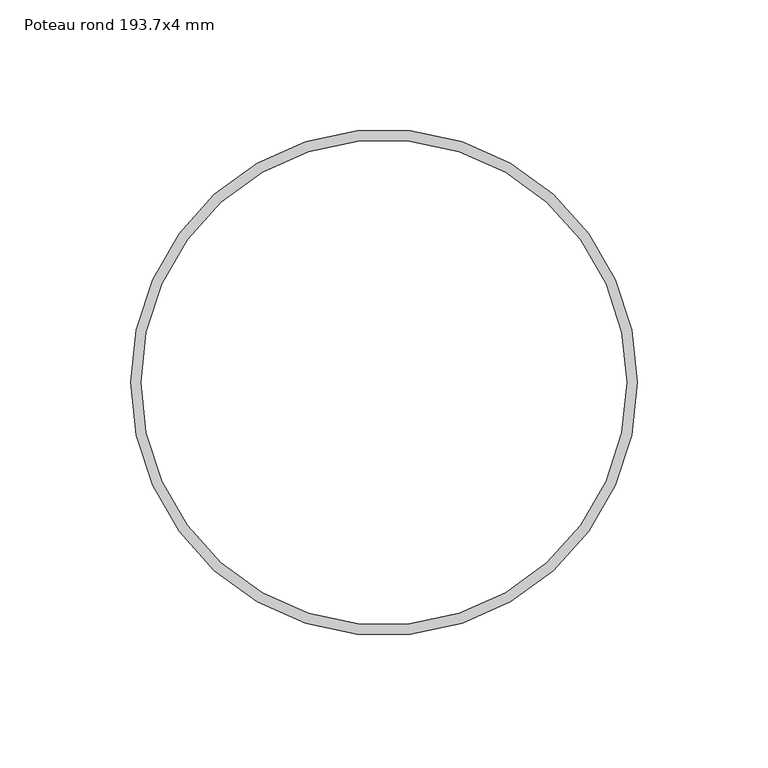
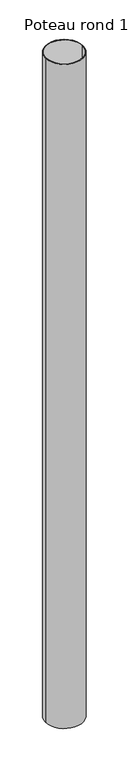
"""IFC4 building model written with IfcOpenShell, lengths in millimetres: column geometry, Poteau RO (EN 10219-2) : Poteau rond 193.7x4 mm."""

from ifc_helpers import new_model, si_unit, point, frame, origin, origin_2d, place, context, project, spatial, circle_curve, trimmed, segment, composite_curve, outline, extrude, source, transform, mapped, element, save


def poteau_rond_193_7x4_mm_2a994011(model_context):
    return source(origin(), model_context, "Body", "SweptSolid", [
        extrude(outline(composite_curve([segment(trimmed(circle_curve(origin_2d(), 96.85), [point((-96.85, 0.0))], [point((96.85, 0.0))], False, "CARTESIAN"), True, "CONTINUOUS"), segment(trimmed(circle_curve(origin_2d(), 96.85), [point((96.85, 0.0))], [point((-96.85, 0.0))], False, "CARTESIAN"), True, "CONTINUOUS")], self_intersect=False), holes=[composite_curve([segment(trimmed(circle_curve(origin_2d(), 92.85), [point((-92.85, 0.0))], [point((92.85, 0.0))], True, "CARTESIAN"), True, "CONTINUOUS"), segment(trimmed(circle_curve(origin_2d(), 92.85), [point((92.85, 0.0))], [point((-92.85, 0.0))], True, "CARTESIAN"), True, "CONTINUOUS")], self_intersect=False)]), frame((0.0, 0.0, 869500.0), z_axis=(0.0, 0.0, 1.0), x_axis=(1.0, 0.0, 0.0)), (0.0, 0.0, 1.0), 3620.7567371),
    ])


if __name__ == "__main__":
    model = new_model("IFC4")
    model_context = context("Model", 3, world=origin())
    ifc_project = project(units=[si_unit("LENGTHUNIT", "METRE", prefix="MILLI")], contexts=[model_context])
    site = spatial("IfcSite", under=ifc_project)
    building = spatial("IfcBuilding", under=site)
    placement = place(None, origin())
    poteau_rond_193_7x4_mm_shape = poteau_rond_193_7x4_mm_2a994011(model_context)
    element("IfcColumn", 1, ObjectType="Poteau RO (EN 10219-2) : Poteau rond 193.7x4 mm", at=placement, inside=building, context=model_context, shape_type="MappedRepresentation", body=[
        mapped(poteau_rond_193_7x4_mm_shape, transform((0.0, 0.0, 0.0), x_axis=(1.0, 0.0, 0.0), y_axis=(0.0, 1.0, 0.0), z_axis=(0.0, 0.0, 1.0))),
    ])
    save(model, "model.ifc")
